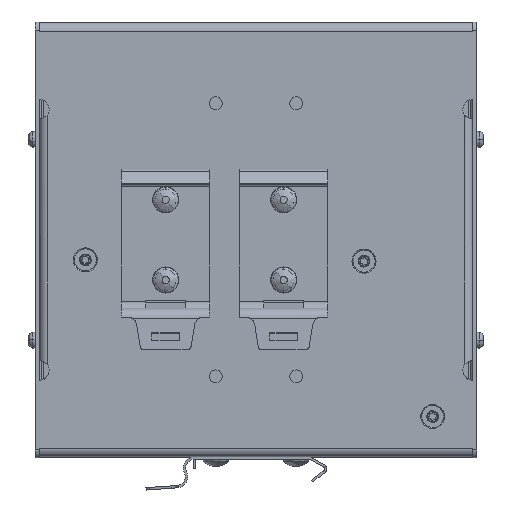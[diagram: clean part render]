
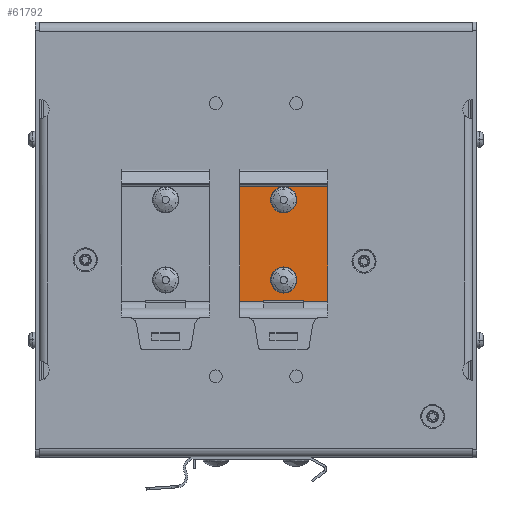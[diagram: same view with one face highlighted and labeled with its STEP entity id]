
A CAD part, front view. The second image highlights one B-rep face of the part: STEP entity #61792.
In plain terms, the highlighted planar face has unit normal (0, -1, 0).
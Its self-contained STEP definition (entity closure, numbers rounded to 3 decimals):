
#682 = VERTEX_POINT ( 'NONE', #14670 ) ;
#2725 = VERTEX_POINT ( 'NONE', #22278 ) ;
#2930 = LINE ( 'NONE', #33574, #14113 ) ;
#3234 = EDGE_CURVE ( 'NONE', #29474, #30806, #69163, .T. ) ;
#3718 = CARTESIAN_POINT ( 'NONE',  ( -4.1, -37.85, 13.311 ) ) ;
#4006 = ORIENTED_EDGE ( 'NONE', *, *, #49829, .F. ) ;
#5113 = DIRECTION ( 'NONE',  ( 1., 0., 0. ) ) ;
#5336 =( BOUNDED_CURVE ( )  B_SPLINE_CURVE ( 3, ( #57330, #18855, #46317, #24402 ),
 .UNSPECIFIED., .F., .F. ) 
 B_SPLINE_CURVE_WITH_KNOTS ( ( 4, 4 ),
 ( 0., 1. ),
 .UNSPECIFIED. ) 
 CURVE ( )  GEOMETRIC_REPRESENTATION_ITEM ( )  RATIONAL_B_SPLINE_CURVE ( ( 1., 0.333, 0.333, 1. ) ) 
 REPRESENTATION_ITEM ( '' )  );
#6374 = VECTOR ( 'NONE', #59207, 1000. ) ;
#6402 = LINE ( 'NONE', #23978, #48584 ) ;
#7249 = VERTEX_POINT ( 'NONE', #39848 ) ;
#7415 = DIRECTION ( 'NONE',  ( 0., 0., -1. ) ) ;
#7771 = ORIENTED_EDGE ( 'NONE', *, *, #19485, .F. ) ;
#7895 = CARTESIAN_POINT ( 'NONE',  ( 17.9, -37.85, 13.311 ) ) ;
#10701 = LINE ( 'NONE', #7895, #54603 ) ;
#12386 = VECTOR ( 'NONE', #7415, 1000. ) ;
#12451 = VECTOR ( 'NONE', #5113, 1000. ) ;
#13043 = ORIENTED_EDGE ( 'NONE', *, *, #64788, .T. ) ;
#14095 = CARTESIAN_POINT ( 'NONE',  ( 13.4, -37.85, -13.25 ) ) ;
#14113 = VECTOR ( 'NONE', #66464, 1000. ) ;
#14505 = ORIENTED_EDGE ( 'NONE', *, *, #57840, .F. ) ;
#14670 = CARTESIAN_POINT ( 'NONE',  ( 17.9, -37.85, 13.311 ) ) ;
#14896 = EDGE_CURVE ( 'NONE', #51318, #41919, #5336, .T. ) ;
#15031 = EDGE_CURVE ( 'NONE', #30806, #2725, #49848, .T. ) ;
#15728 = CARTESIAN_POINT ( 'NONE',  ( 11.905, -37.85, -14.995 ) ) ;
#16414 = CARTESIAN_POINT ( 'NONE',  ( 1.895, -37.85, -14.995 ) ) ;
#17205 = LINE ( 'NONE', #60890, #44796 ) ;
#18356 = CARTESIAN_POINT ( 'NONE',  ( 13.4, -37.85, 6.75 ) ) ;
#18569 = EDGE_LOOP ( 'NONE', ( #54710, #44405 ) ) ;
#18717 = DIRECTION ( 'NONE',  ( 1., 0., 0. ) ) ;
#18855 = CARTESIAN_POINT ( 'NONE',  ( 0.4, -37.85, 13.25 ) ) ;
#19485 = EDGE_CURVE ( 'NONE', #682, #61303, #69103, .T. ) ;
#19627 = CARTESIAN_POINT ( 'NONE',  ( 6.9, -37.85, -13.25 ) ) ;
#19976 = EDGE_LOOP ( 'NONE', ( #32900, #25290 ) ) ;
#20951 = EDGE_CURVE ( 'NONE', #49395, #33924, #41963, .T. ) ;
#21014 = LINE ( 'NONE', #64463, #6374 ) ;
#21152 = CARTESIAN_POINT ( 'NONE',  ( 6.9, -37.85, -6.75 ) ) ;
#21469 =( BOUNDED_CURVE ( )  B_SPLINE_CURVE ( 3, ( #45809, #18356, #62285, #29395 ),
 .UNSPECIFIED., .F., .F. ) 
 B_SPLINE_CURVE_WITH_KNOTS ( ( 4, 4 ),
 ( 0., 1. ),
 .UNSPECIFIED. ) 
 CURVE ( )  GEOMETRIC_REPRESENTATION_ITEM ( )  RATIONAL_B_SPLINE_CURVE ( ( 1., 0.333, 0.333, 1. ) ) 
 REPRESENTATION_ITEM ( '' )  );
#21946 = FACE_BOUND ( 'NONE', #19976, .T. ) ;
#22278 = CARTESIAN_POINT ( 'NONE',  ( 11.905, -37.85, -15.3 ) ) ;
#22560 = PLANE ( 'NONE',  #62791 ) ;
#23323 = EDGE_LOOP ( 'NONE', ( #24823, #4006, #69269, #61964, #42279, #7771, #51103, #58366, #14505, #13043 ) ) ;
#23978 = CARTESIAN_POINT ( 'NONE',  ( 1.895, -37.85, -14.995 ) ) ;
#23991 = CARTESIAN_POINT ( 'NONE',  ( 17.9, -37.85, -14.995 ) ) ;
#24402 = CARTESIAN_POINT ( 'NONE',  ( 6.9, -37.85, 6.75 ) ) ;
#24823 = ORIENTED_EDGE ( 'NONE', *, *, #61957, .T. ) ;
#25139 = CARTESIAN_POINT ( 'NONE',  ( 13.4, -37.85, -6.75 ) ) ;
#25290 = ORIENTED_EDGE ( 'NONE', *, *, #52141, .F. ) ;
#26578 = CARTESIAN_POINT ( 'NONE',  ( 0.4, -37.85, -6.75 ) ) ;
#27025 = CARTESIAN_POINT ( 'NONE',  ( 6.9, -37.85, 6.75 ) ) ;
#28062 = DIRECTION ( 'NONE',  ( 0., 0., 1. ) ) ;
#29395 = CARTESIAN_POINT ( 'NONE',  ( 6.9, -37.85, 13.25 ) ) ;
#29474 = VERTEX_POINT ( 'NONE', #32559 ) ;
#29490 = DIRECTION ( 'NONE',  ( 1., 0., 0. ) ) ;
#29952 = VECTOR ( 'NONE', #67405, 1000. ) ;
#30806 = VERTEX_POINT ( 'NONE', #15728 ) ;
#31537 =( BOUNDED_CURVE ( )  B_SPLINE_CURVE ( 3, ( #19627, #14095, #25139, #63567 ),
 .UNSPECIFIED., .F., .F. ) 
 B_SPLINE_CURVE_WITH_KNOTS ( ( 4, 4 ),
 ( 0., 1. ),
 .UNSPECIFIED. ) 
 CURVE ( )  GEOMETRIC_REPRESENTATION_ITEM ( )  RATIONAL_B_SPLINE_CURVE ( ( 1., 0.333, 0.333, 1. ) ) 
 REPRESENTATION_ITEM ( '' )  );
#32099 = CARTESIAN_POINT ( 'NONE',  ( 0.4, -37.85, -13.25 ) ) ;
#32559 = CARTESIAN_POINT ( 'NONE',  ( 11.9, -37.85, -14.995 ) ) ;
#32900 = ORIENTED_EDGE ( 'NONE', *, *, #20951, .F. ) ;
#33574 = CARTESIAN_POINT ( 'NONE',  ( 1.895, -37.85, -14.995 ) ) ;
#33751 = DIRECTION ( 'NONE',  ( -1., 0., 0. ) ) ;
#33924 = VERTEX_POINT ( 'NONE', #47768 ) ;
#35869 = VERTEX_POINT ( 'NONE', #69972 ) ;
#36477 = VECTOR ( 'NONE', #67670, 1000. ) ;
#37651 = EDGE_CURVE ( 'NONE', #35869, #43479, #44632, .T. ) ;
#39848 = CARTESIAN_POINT ( 'NONE',  ( 1.895, -37.85, -14.995 ) ) ;
#39903 = DIRECTION ( 'NONE',  ( 0., 0., -1. ) ) ;
#41919 = VERTEX_POINT ( 'NONE', #27025 ) ;
#41963 =( BOUNDED_CURVE ( )  B_SPLINE_CURVE ( 3, ( #64994, #26578, #32099, #70525 ),
 .UNSPECIFIED., .F., .F. ) 
 B_SPLINE_CURVE_WITH_KNOTS ( ( 4, 4 ),
 ( 0., 1. ),
 .UNSPECIFIED. ) 
 CURVE ( )  GEOMETRIC_REPRESENTATION_ITEM ( )  RATIONAL_B_SPLINE_CURVE ( ( 1., 0.333, 0.333, 1. ) ) 
 REPRESENTATION_ITEM ( '' )  );
#42279 = ORIENTED_EDGE ( 'NONE', *, *, #55997, .F. ) ;
#43479 = VERTEX_POINT ( 'NONE', #3718 ) ;
#44405 = ORIENTED_EDGE ( 'NONE', *, *, #65544, .F. ) ;
#44632 = LINE ( 'NONE', #45413, #29952 ) ;
#44796 = VECTOR ( 'NONE', #33751, 1000. ) ;
#45413 = CARTESIAN_POINT ( 'NONE',  ( -4.1, -37.85, -19.61 ) ) ;
#45507 = CARTESIAN_POINT ( 'NONE',  ( 17.9, -37.85, -15.3 ) ) ;
#45809 = CARTESIAN_POINT ( 'NONE',  ( 6.9, -37.85, 6.75 ) ) ;
#46317 = CARTESIAN_POINT ( 'NONE',  ( 0.4, -37.85, 6.75 ) ) ;
#47768 = CARTESIAN_POINT ( 'NONE',  ( 6.9, -37.85, -13.25 ) ) ;
#48584 = VECTOR ( 'NONE', #29490, 1000. ) ;
#49395 = VERTEX_POINT ( 'NONE', #21152 ) ;
#49829 = EDGE_CURVE ( 'NONE', #29474, #63685, #54589, .T. ) ;
#49848 = LINE ( 'NONE', #56471, #51543 ) ;
#51103 = ORIENTED_EDGE ( 'NONE', *, *, #55181, .F. ) ;
#51188 = FACE_BOUND ( 'NONE', #18569, .T. ) ;
#51318 = VERTEX_POINT ( 'NONE', #62165 ) ;
#51543 = VECTOR ( 'NONE', #39903, 1000. ) ;
#52141 = EDGE_CURVE ( 'NONE', #33924, #49395, #31537, .T. ) ;
#53389 = VERTEX_POINT ( 'NONE', #59579 ) ;
#54240 = CARTESIAN_POINT ( 'NONE',  ( 1.9, -37.85, -14.995 ) ) ;
#54589 = LINE ( 'NONE', #23991, #36477 ) ;
#54603 = VECTOR ( 'NONE', #18717, 1000. ) ;
#54710 = ORIENTED_EDGE ( 'NONE', *, *, #14896, .F. ) ;
#55181 = EDGE_CURVE ( 'NONE', #43479, #682, #10701, .T. ) ;
#55997 = EDGE_CURVE ( 'NONE', #61303, #2725, #21014, .T. ) ;
#56471 = CARTESIAN_POINT ( 'NONE',  ( 11.905, -37.85, -14.995 ) ) ;
#57330 = CARTESIAN_POINT ( 'NONE',  ( 6.9, -37.85, 13.25 ) ) ;
#57840 = EDGE_CURVE ( 'NONE', #53389, #35869, #17205, .T. ) ;
#58366 = ORIENTED_EDGE ( 'NONE', *, *, #37651, .F. ) ;
#59207 = DIRECTION ( 'NONE',  ( -1., 0., 0. ) ) ;
#59579 = CARTESIAN_POINT ( 'NONE',  ( 1.895, -37.85, -15.3 ) ) ;
#60890 = CARTESIAN_POINT ( 'NONE',  ( 17.9, -37.85, -15.3 ) ) ;
#60957 = DIRECTION ( 'NONE',  ( 0., 1., 0. ) ) ;
#61303 = VERTEX_POINT ( 'NONE', #45507 ) ;
#61792 = ADVANCED_FACE ( 'NONE', ( #64039, #21946, #51188 ), #22560, .F. ) ;
#61957 = EDGE_CURVE ( 'NONE', #7249, #63685, #6402, .T. ) ;
#61964 = ORIENTED_EDGE ( 'NONE', *, *, #15031, .T. ) ;
#62165 = CARTESIAN_POINT ( 'NONE',  ( 6.9, -37.85, 13.25 ) ) ;
#62285 = CARTESIAN_POINT ( 'NONE',  ( 13.4, -37.85, 13.25 ) ) ;
#62791 = AXIS2_PLACEMENT_3D ( 'NONE', #66231, #60957, #28062 ) ;
#63567 = CARTESIAN_POINT ( 'NONE',  ( 6.9, -37.85, -6.75 ) ) ;
#63685 = VERTEX_POINT ( 'NONE', #54240 ) ;
#64039 = FACE_OUTER_BOUND ( 'NONE', #23323, .T. ) ;
#64463 = CARTESIAN_POINT ( 'NONE',  ( 17.9, -37.85, -15.3 ) ) ;
#64788 = EDGE_CURVE ( 'NONE', #53389, #7249, #2930, .T. ) ;
#64994 = CARTESIAN_POINT ( 'NONE',  ( 6.9, -37.85, -6.75 ) ) ;
#65544 = EDGE_CURVE ( 'NONE', #41919, #51318, #21469, .T. ) ;
#66231 = CARTESIAN_POINT ( 'NONE',  ( 17.9, -37.85, 10. ) ) ;
#66464 = DIRECTION ( 'NONE',  ( 0., 0., 1. ) ) ;
#67405 = DIRECTION ( 'NONE',  ( 0., 0., 1. ) ) ;
#67670 = DIRECTION ( 'NONE',  ( -1., 0., 0. ) ) ;
#67684 = CARTESIAN_POINT ( 'NONE',  ( 17.9, -37.85, 13.335 ) ) ;
#69103 = LINE ( 'NONE', #67684, #12386 ) ;
#69163 = LINE ( 'NONE', #16414, #12451 ) ;
#69269 = ORIENTED_EDGE ( 'NONE', *, *, #3234, .T. ) ;
#69972 = CARTESIAN_POINT ( 'NONE',  ( -4.1, -37.85, -15.3 ) ) ;
#70525 = CARTESIAN_POINT ( 'NONE',  ( 6.9, -37.85, -13.25 ) ) ;
